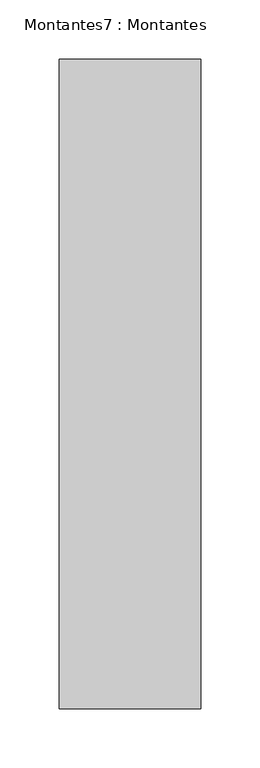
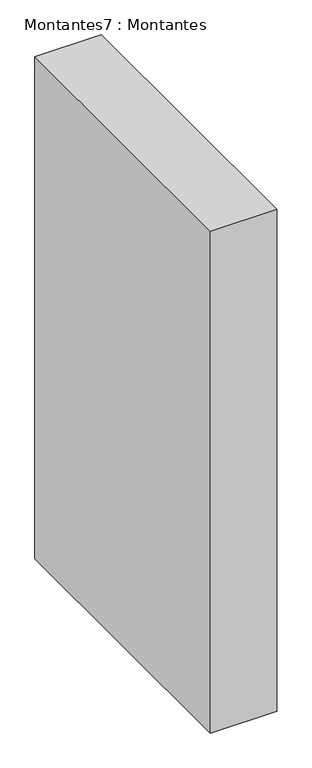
"""IFC4 building model written with IfcOpenShell, lengths in millimetres: column geometry, Montantes7 : Montantes."""

from ifc_helpers import new_model, si_unit, frame, origin, place, context, project, spatial, polyline, outline, extrude, source, transform, mapped, element, save


def montantes7_montantes_873a3f8b(model_context):
    return source(origin(), model_context, "Body", "SweptSolid", [
        extrude(outline(polyline([(-3222.3834094, -1042.0637549), (-3222.3834094, -1592.0637549), (-3342.3834094, -1592.0637549), (-3342.3834094, -1042.0637549), (-3222.3834094, -1042.0637549)])), frame((0.0, 0.0, -60.0), z_axis=(0.0, 0.0, 1.0), x_axis=(1.0, 0.0, 0.0)), (0.0, 0.0, 1.0), 960.0),
    ])


if __name__ == "__main__":
    model = new_model("IFC4")
    model_context = context("Model", 3, world=origin())
    ifc_project = project(units=[si_unit("LENGTHUNIT", "METRE", prefix="MILLI")], contexts=[model_context])
    site = spatial("IfcSite", under=ifc_project)
    building = spatial("IfcBuilding", under=site)
    placement = place(None, origin())
    montantes7_montantes_shape = montantes7_montantes_873a3f8b(model_context)
    element("IfcColumn", 1, ObjectType="Montantes7 : Montantes", at=placement, inside=building, context=model_context, shape_type="MappedRepresentation", body=[
        mapped(montantes7_montantes_shape, transform((0.0, 0.0, 0.0), x_axis=(1.0, 0.0, 0.0), y_axis=(0.0, 1.0, 0.0), z_axis=(0.0, 0.0, 1.0))),
    ])
    save(model, "model.ifc")
